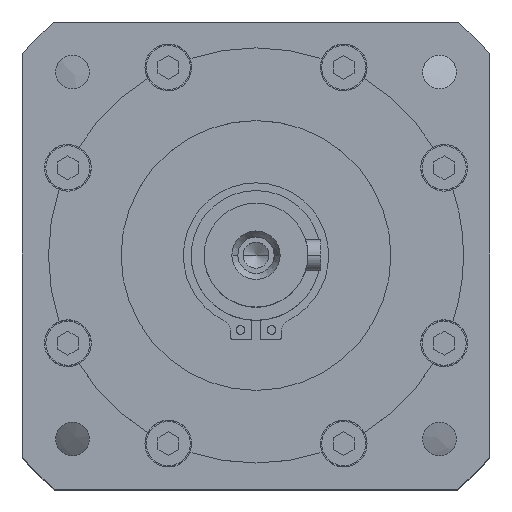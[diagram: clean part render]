
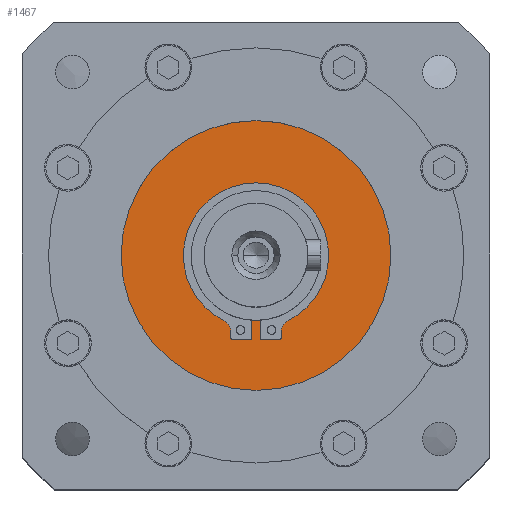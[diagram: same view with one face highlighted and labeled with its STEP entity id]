
A CAD part, top view. The second image highlights one B-rep face of the part: STEP entity #1467.
In plain terms, the highlighted planar face has unit normal (0, 0, 1).
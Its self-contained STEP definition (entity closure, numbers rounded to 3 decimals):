
#231 = EDGE_CURVE ( 'NONE', #555, #32342, #18450, .T. ) ;
#270 = EDGE_LOOP ( 'NONE', ( #19020, #30458, #12821, #30331, #38091, #21473, #32066, #5693, #8854, #37712, #35358, #5434, #28104, #3157 ) ) ;
#555 = VERTEX_POINT ( 'NONE', #37279 ) ;
#1035 = CARTESIAN_POINT ( 'NONE',  ( -0.85, -16.271, -2.5 ) ) ;
#1331 = CARTESIAN_POINT ( 'NONE',  ( 0.85, -16.271, -2.5 ) ) ;
#1467 = ADVANCED_FACE ( 'NONE', ( #12782, #28871 ), #19369, .F. ) ;
#1779 = DIRECTION ( 'NONE',  ( 0., 0., 1. ) ) ;
#2220 = DIRECTION ( 'NONE',  ( 0., 0., -1. ) ) ;
#2291 = VECTOR ( 'NONE', #7026, 1000. ) ;
#2731 = CARTESIAN_POINT ( 'NONE',  ( -4.35, -16.271, -2.5 ) ) ;
#2852 = VECTOR ( 'NONE', #33946, 1000. ) ;
#3157 = ORIENTED_EDGE ( 'NONE', *, *, #33342, .F. ) ;
#3534 = CARTESIAN_POINT ( 'NONE',  ( -14., 0., -2.5 ) ) ;
#3917 = AXIS2_PLACEMENT_3D ( 'NONE', #34030, #33989, #33941 ) ;
#4608 = DIRECTION ( 'NONE',  ( -1., 0., 0. ) ) ;
#4642 = DIRECTION ( 'NONE',  ( 0., 0., 1. ) ) ;
#4746 = CARTESIAN_POINT ( 'NONE',  ( 0., 0., -2.5 ) ) ;
#5084 = EDGE_CURVE ( 'NONE', #7320, #36173, #14488, .T. ) ;
#5387 = EDGE_CURVE ( 'NONE', #16714, #33777, #29104, .T. ) ;
#5434 = ORIENTED_EDGE ( 'NONE', *, *, #37166, .F. ) ;
#5635 = CIRCLE ( 'NONE', #3917, 26. ) ;
#5693 = ORIENTED_EDGE ( 'NONE', *, *, #27658, .F. ) ;
#5772 = EDGE_CURVE ( 'NONE', #19813, #26545, #19636, .T. ) ;
#6215 = VERTEX_POINT ( 'NONE', #35756 ) ;
#6252 = EDGE_CURVE ( 'NONE', #13897, #37011, #38408, .T. ) ;
#6426 = VECTOR ( 'NONE', #19331, 1000. ) ;
#6455 = VECTOR ( 'NONE', #26761, 1000. ) ;
#7026 = DIRECTION ( 'NONE',  ( 1., 0., 0. ) ) ;
#7199 = CARTESIAN_POINT ( 'NONE',  ( 0., -16.271, -2.5 ) ) ;
#7320 = VERTEX_POINT ( 'NONE', #21801 ) ;
#7414 = CARTESIAN_POINT ( 'NONE',  ( 4.85, -14.773, -2.5 ) ) ;
#7799 = EDGE_CURVE ( 'NONE', #26545, #16714, #38751, .T. ) ;
#7981 = AXIS2_PLACEMENT_3D ( 'NONE', #26532, #23736, #21380 ) ;
#8204 = DIRECTION ( 'NONE',  ( 0., 1., 0. ) ) ;
#8287 = EDGE_CURVE ( 'NONE', #6215, #30169, #27481, .T. ) ;
#8430 = DIRECTION ( 'NONE',  ( -1., 0., 0. ) ) ;
#8854 = ORIENTED_EDGE ( 'NONE', *, *, #8287, .F. ) ;
#9973 = LINE ( 'NONE', #29342, #20827 ) ;
#11194 = CARTESIAN_POINT ( 'NONE',  ( 6.236, -12.534, -2.5 ) ) ;
#11605 = VERTEX_POINT ( 'NONE', #1035 ) ;
#11727 = LINE ( 'NONE', #19435, #2852 ) ;
#12190 = EDGE_CURVE ( 'NONE', #32342, #13897, #15447, .T. ) ;
#12412 = LINE ( 'NONE', #13972, #27535 ) ;
#12597 = AXIS2_PLACEMENT_3D ( 'NONE', #15285, #36392, #18302 ) ;
#12782 = FACE_OUTER_BOUND ( 'NONE', #16844, .T. ) ;
#12821 = ORIENTED_EDGE ( 'NONE', *, *, #231, .F. ) ;
#13897 = VERTEX_POINT ( 'NONE', #29257 ) ;
#13972 = CARTESIAN_POINT ( 'NONE',  ( 0., -16.271, -2.5 ) ) ;
#14488 = LINE ( 'NONE', #19342, #6426 ) ;
#14947 = VERTEX_POINT ( 'NONE', #30156 ) ;
#15285 = CARTESIAN_POINT ( 'NONE',  ( 0., 0., -2.5 ) ) ;
#15447 = LINE ( 'NONE', #26990, #6455 ) ;
#16714 = VERTEX_POINT ( 'NONE', #35647 ) ;
#16817 = EDGE_CURVE ( 'NONE', #29320, #22963, #5635, .T. ) ;
#16844 = EDGE_LOOP ( 'NONE', ( #26541, #20550 ) ) ;
#17748 = CIRCLE ( 'NONE', #29811, 14. ) ;
#18253 = AXIS2_PLACEMENT_3D ( 'NONE', #28937, #2220, #8430 ) ;
#18302 = DIRECTION ( 'NONE',  ( -1., 0., 0. ) ) ;
#18450 = CIRCLE ( 'NONE', #18253, 2.5 ) ;
#19008 = EDGE_CURVE ( 'NONE', #33777, #555, #17748, .T. ) ;
#19020 = ORIENTED_EDGE ( 'NONE', *, *, #6252, .F. ) ;
#19278 = EDGE_CURVE ( 'NONE', #36173, #6215, #27166, .T. ) ;
#19331 = DIRECTION ( 'NONE',  ( 0., -1., 0. ) ) ;
#19335 = AXIS2_PLACEMENT_3D ( 'NONE', #31114, #28191, #31409 ) ;
#19337 = DIRECTION ( 'NONE',  ( -1., 0., 0. ) ) ;
#19342 = CARTESIAN_POINT ( 'NONE',  ( 0.85, 0., -2.5 ) ) ;
#19369 = PLANE ( 'NONE',  #27389 ) ;
#19435 = CARTESIAN_POINT ( 'NONE',  ( 4.85, 0., -2.5 ) ) ;
#19464 = CARTESIAN_POINT ( 'NONE',  ( 0., 0., -2.5 ) ) ;
#19477 = DIRECTION ( 'NONE',  ( 0., 0., -1. ) ) ;
#19574 = AXIS2_PLACEMENT_3D ( 'NONE', #34169, #34126, #34070 ) ;
#19636 = CIRCLE ( 'NONE', #35017, 2.5 ) ;
#19693 = CARTESIAN_POINT ( 'NONE',  ( 0., 0., -2.5 ) ) ;
#19796 = CARTESIAN_POINT ( 'NONE',  ( 26., 0., -2.5 ) ) ;
#19813 = VERTEX_POINT ( 'NONE', #7414 ) ;
#20550 = ORIENTED_EDGE ( 'NONE', *, *, #16817, .T. ) ;
#20827 = VECTOR ( 'NONE', #8204, 1000. ) ;
#20947 = CARTESIAN_POINT ( 'NONE',  ( 4.85, -15.771, -2.5 ) ) ;
#21380 = DIRECTION ( 'NONE',  ( -1., 0., 0. ) ) ;
#21473 = ORIENTED_EDGE ( 'NONE', *, *, #7799, .F. ) ;
#21801 = CARTESIAN_POINT ( 'NONE',  ( 0.85, -12.471, -2.5 ) ) ;
#22720 = DIRECTION ( 'NONE',  ( 1., 0., 0. ) ) ;
#22963 = VERTEX_POINT ( 'NONE', #19796 ) ;
#23736 = DIRECTION ( 'NONE',  ( 0., 0., 1. ) ) ;
#24308 = AXIS2_PLACEMENT_3D ( 'NONE', #19693, #1779, #22720 ) ;
#26452 = DIRECTION ( 'NONE',  ( -1., 0., 0. ) ) ;
#26525 = DIRECTION ( 'NONE',  ( 0., 0., -1. ) ) ;
#26532 = CARTESIAN_POINT ( 'NONE',  ( 4.35, -15.771, -2.5 ) ) ;
#26541 = ORIENTED_EDGE ( 'NONE', *, *, #32687, .T. ) ;
#26545 = VERTEX_POINT ( 'NONE', #11194 ) ;
#26692 = CARTESIAN_POINT ( 'NONE',  ( 7.35, -14.773, -2.5 ) ) ;
#26761 = DIRECTION ( 'NONE',  ( 0., -1., 0. ) ) ;
#26990 = CARTESIAN_POINT ( 'NONE',  ( -4.85, 0., -2.5 ) ) ;
#27166 = LINE ( 'NONE', #7199, #2291 ) ;
#27389 = AXIS2_PLACEMENT_3D ( 'NONE', #19464, #19477, #19337 ) ;
#27481 = CIRCLE ( 'NONE', #7981, 0.5 ) ;
#27535 = VECTOR ( 'NONE', #35096, 1000. ) ;
#27658 = EDGE_CURVE ( 'NONE', #30169, #19813, #11727, .T. ) ;
#28104 = ORIENTED_EDGE ( 'NONE', *, *, #35118, .F. ) ;
#28191 = DIRECTION ( 'NONE',  ( 0., 0., 1. ) ) ;
#28871 = FACE_BOUND ( 'NONE', #270, .T. ) ;
#28937 = CARTESIAN_POINT ( 'NONE',  ( -7.35, -14.773, -2.5 ) ) ;
#29104 = CIRCLE ( 'NONE', #19574, 14. ) ;
#29257 = CARTESIAN_POINT ( 'NONE',  ( -4.85, -15.771, -2.5 ) ) ;
#29320 = VERTEX_POINT ( 'NONE', #36731 ) ;
#29342 = CARTESIAN_POINT ( 'NONE',  ( -0.85, 0., -2.5 ) ) ;
#29811 = AXIS2_PLACEMENT_3D ( 'NONE', #33985, #33951, #33843 ) ;
#30156 = CARTESIAN_POINT ( 'NONE',  ( -0.85, -12.471, -2.5 ) ) ;
#30169 = VERTEX_POINT ( 'NONE', #20947 ) ;
#30331 = ORIENTED_EDGE ( 'NONE', *, *, #19008, .F. ) ;
#30458 = ORIENTED_EDGE ( 'NONE', *, *, #12190, .F. ) ;
#31114 = CARTESIAN_POINT ( 'NONE',  ( -4.35, -15.771, -2.5 ) ) ;
#31409 = DIRECTION ( 'NONE',  ( -1., 0., 0. ) ) ;
#31784 = AXIS2_PLACEMENT_3D ( 'NONE', #4746, #4642, #4608 ) ;
#32066 = ORIENTED_EDGE ( 'NONE', *, *, #5772, .F. ) ;
#32342 = VERTEX_POINT ( 'NONE', #34663 ) ;
#32687 = EDGE_CURVE ( 'NONE', #22963, #29320, #34687, .T. ) ;
#33342 = EDGE_CURVE ( 'NONE', #37011, #11605, #12412, .T. ) ;
#33777 = VERTEX_POINT ( 'NONE', #3534 ) ;
#33843 = DIRECTION ( 'NONE',  ( -1., 0., 0. ) ) ;
#33941 = DIRECTION ( 'NONE',  ( 1., 0., 0. ) ) ;
#33946 = DIRECTION ( 'NONE',  ( 0., 1., 0. ) ) ;
#33951 = DIRECTION ( 'NONE',  ( 0., 0., 1. ) ) ;
#33985 = CARTESIAN_POINT ( 'NONE',  ( 0., 0., -2.5 ) ) ;
#33989 = DIRECTION ( 'NONE',  ( 0., 0., 1. ) ) ;
#34030 = CARTESIAN_POINT ( 'NONE',  ( 0., 0., -2.5 ) ) ;
#34070 = DIRECTION ( 'NONE',  ( -1., 0., 0. ) ) ;
#34126 = DIRECTION ( 'NONE',  ( 0., 0., 1. ) ) ;
#34169 = CARTESIAN_POINT ( 'NONE',  ( 0., 0., -2.5 ) ) ;
#34663 = CARTESIAN_POINT ( 'NONE',  ( -4.85, -14.773, -2.5 ) ) ;
#34687 = CIRCLE ( 'NONE', #24308, 26. ) ;
#35017 = AXIS2_PLACEMENT_3D ( 'NONE', #26692, #26525, #26452 ) ;
#35096 = DIRECTION ( 'NONE',  ( 1., 0., 0. ) ) ;
#35118 = EDGE_CURVE ( 'NONE', #11605, #14947, #9973, .T. ) ;
#35358 = ORIENTED_EDGE ( 'NONE', *, *, #5084, .F. ) ;
#35647 = CARTESIAN_POINT ( 'NONE',  ( 14., 0., -2.5 ) ) ;
#35756 = CARTESIAN_POINT ( 'NONE',  ( 4.35, -16.271, -2.5 ) ) ;
#36173 = VERTEX_POINT ( 'NONE', #1331 ) ;
#36392 = DIRECTION ( 'NONE',  ( 0., 0., 1. ) ) ;
#36731 = CARTESIAN_POINT ( 'NONE',  ( -26., 0., -2.5 ) ) ;
#37011 = VERTEX_POINT ( 'NONE', #2731 ) ;
#37050 = CIRCLE ( 'NONE', #12597, 12.5 ) ;
#37166 = EDGE_CURVE ( 'NONE', #14947, #7320, #37050, .T. ) ;
#37279 = CARTESIAN_POINT ( 'NONE',  ( -6.236, -12.534, -2.5 ) ) ;
#37712 = ORIENTED_EDGE ( 'NONE', *, *, #19278, .F. ) ;
#38091 = ORIENTED_EDGE ( 'NONE', *, *, #5387, .F. ) ;
#38408 = CIRCLE ( 'NONE', #19335, 0.5 ) ;
#38751 = CIRCLE ( 'NONE', #31784, 14. ) ;
